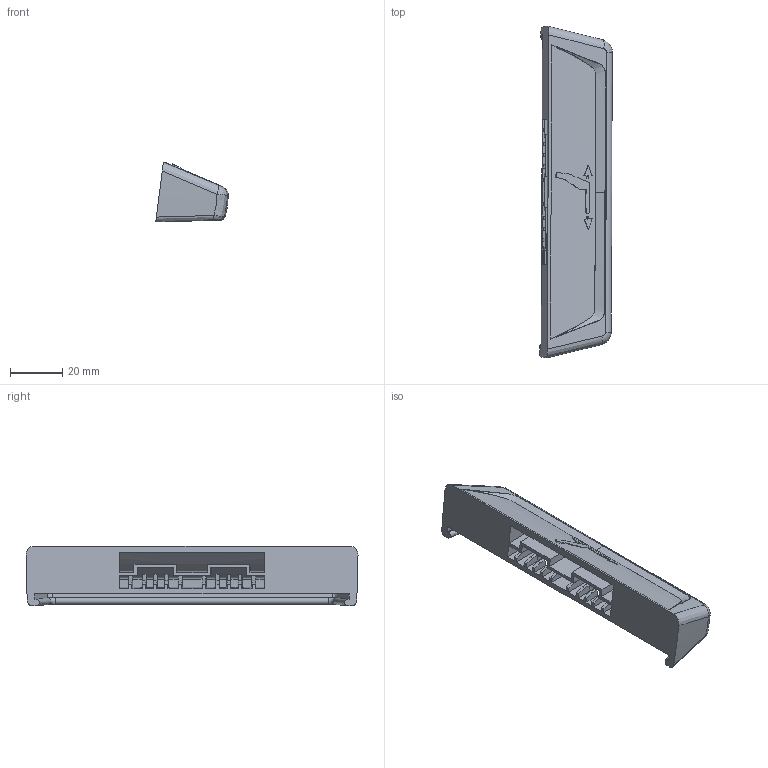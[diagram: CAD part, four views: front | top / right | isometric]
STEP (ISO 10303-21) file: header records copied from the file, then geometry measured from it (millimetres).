
FILE_DESCRIPTION(('CATIA V5 STEP Exchange'),'2;1');
FILE_NAME('C:\Users\Administrator\Desktop\SHT0010526-样件.stp','2020-12-21T02:18:14+00:00',('none'),('none'),'CATIA Version 5 Release 20 GA (IN-10)','CATIA V5 STEP AP214','none');
FILE_SCHEMA(('AUTOMOTIVE_DESIGN { 1 0 10303 214 1 1 1 1 }'));
Length unit declared in the file: millimetre
Products named in the file (1): SHT0010526
Bounding box: 27.64 x 126.52 x 22.81 mm (x, y, z)
Volume: 32192.8 mm3; surface area: 16773 mm2
Topology: 1 solids, 1 shells, 241 faces, 728 edges, 496 vertices
Faces by surface type: plane 153, bspline 46, cylinder 29, extrusion 13
Entity records: 14389 total; most frequent: CARTESIAN_POINT 8984, ORIENTED_EDGE 1450, EDGE_CURVE 725, DIRECTION 574, VERTEX_POINT 490, B_SPLINE_CURVE_WITH_KNOTS 384, VECTOR 350, LINE 337
